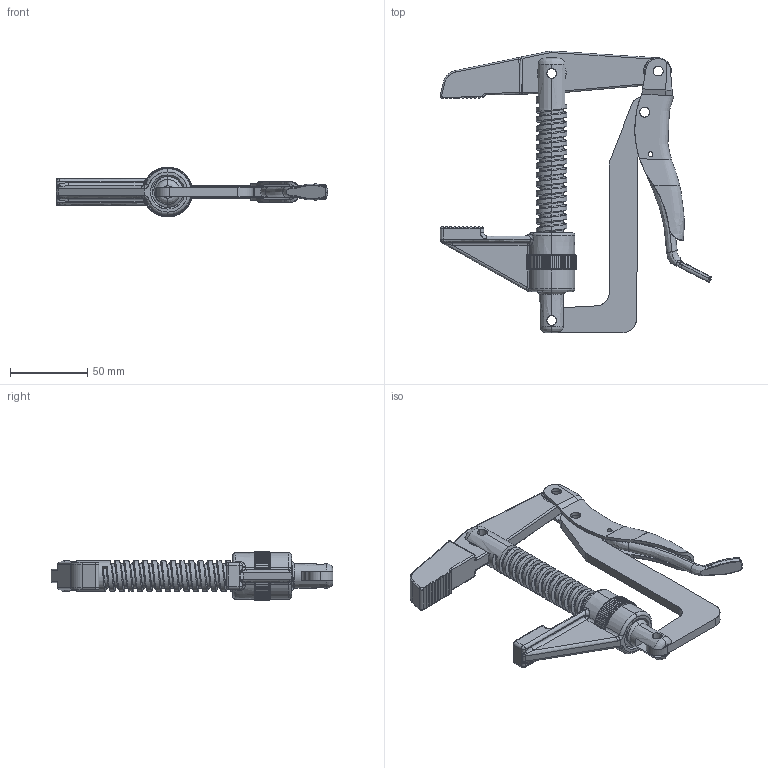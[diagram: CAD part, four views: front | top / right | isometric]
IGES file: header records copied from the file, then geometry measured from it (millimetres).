
Start section: SolidWorks IGES file using analytic representation for surfaces
Global section: file name: D:\GH Files\PDM temp\GH-80070.IGS; native system: SolidWorks 2006 by SolidWorks Corporation; preprocessor: SolidWorks 2006 by SolidWorks Corporation; author: Administrator; date: 060829.120346; units: millimetre
Bounding box: 175.92 x 182.58 x 32.2 mm (x, y, z)
Surface area: 60665.1 mm2 (no closed solid volume)
Topology: 0 solids, 0 shells, 929 faces, 12699 edges, 12687 vertices
Faces by surface type: bspline 529, revolution 400
